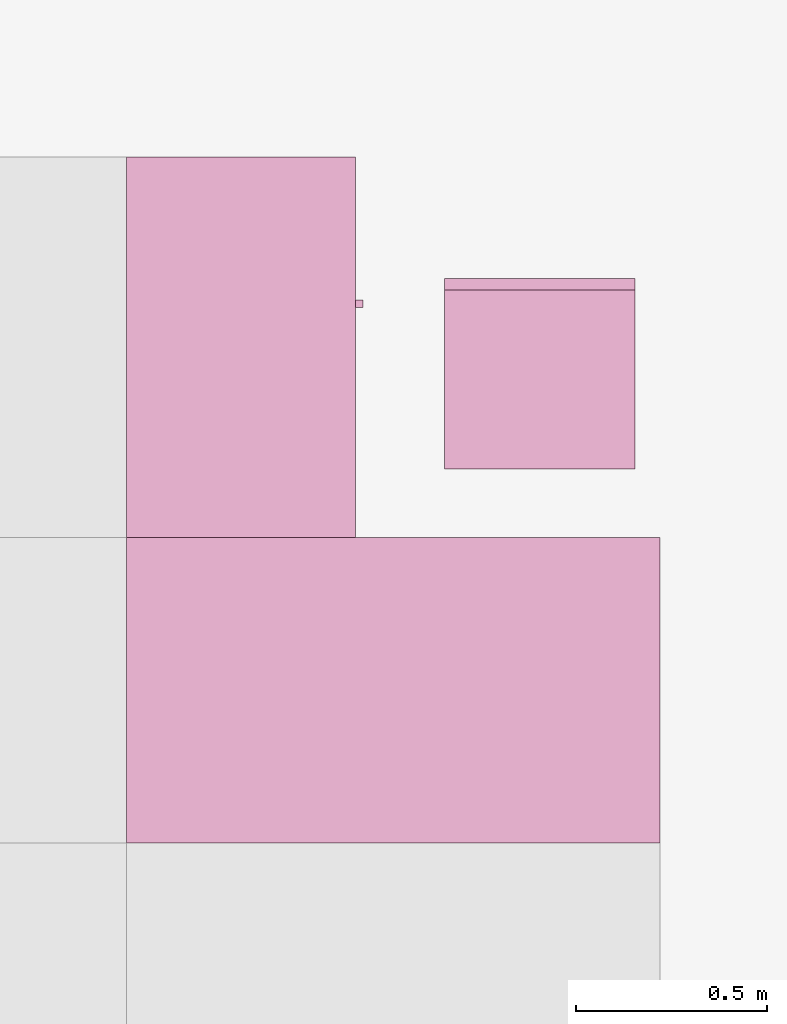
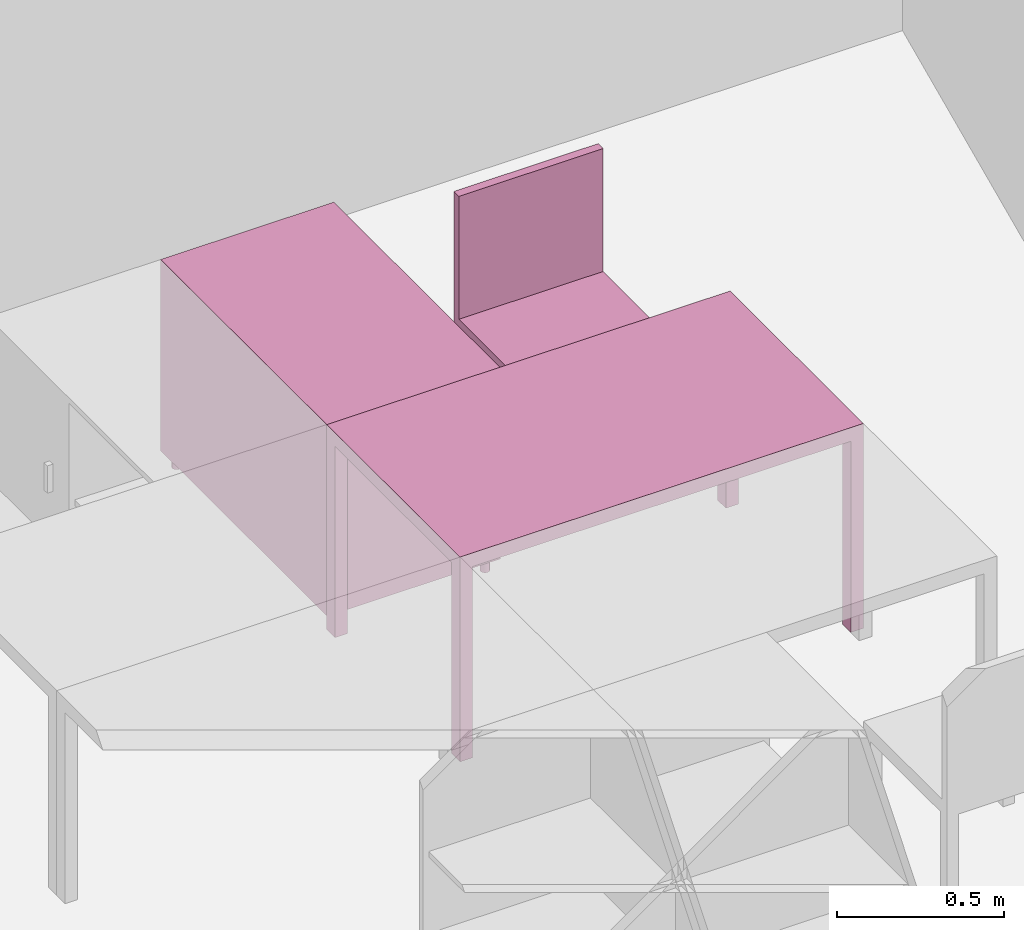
"""IFC4 building model written with IfcOpenShell, lengths in metres."""

from ifc_helpers import new_model, entity, si_unit, converted_unit, derived_unit, frame, origin, place, context, subcontext, project, spatial, faceted_brep, element, save


model = new_model("IFC4")

# Units and contexts
model_context = context("Model", 3, precision=1e-05, world=origin())
body_context = subcontext(model_context, "Body", "Model", "MODEL_VIEW")
ifc_project = project(units=[si_unit("LENGTHUNIT", "METRE"), si_unit("AREAUNIT", "SQUARE_METRE"), si_unit("VOLUMEUNIT", "CUBIC_METRE"), si_unit("MASSUNIT", "GRAM", prefix="KILO"), converted_unit("PLANEANGLEUNIT", "DEGREE", entity("IfcPlaneAngleMeasure", 0.0174532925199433), si_unit("PLANEANGLEUNIT", "RADIAN"), dimensions=[0, 0, 0, 0, 0, 0, 0]), derived_unit("THERMALTRANSMITTANCEUNIT", [(si_unit("POWERUNIT", "WATT"), 1), (si_unit("THERMODYNAMICTEMPERATUREUNIT", "KELVIN"), -1), (si_unit("LENGTHUNIT", "METRE"), -2)]), derived_unit("VOLUMETRICFLOWRATEUNIT", [(si_unit("LENGTHUNIT", "METRE"), 3), (converted_unit("TIMEUNIT", "hour", entity("IfcTimeMeasure", 3600.0), si_unit("TIMEUNIT", "SECOND"), dimensions=[0, 0, 1, 0, 0, 0, 0]), -1), (si_unit("LENGTHUNIT", "METRE"), -1)])], contexts=[model_context])

# Building, storeys
building_placement = place(None, origin())
building = spatial("IfcBuilding", under=ifc_project, at=building_placement, Name="HABITATGE PLURIFAMILIAR", CompositionType="ELEMENT")
storey_1_placement = place(building_placement, frame((0.0, 0.0, 6.25)))
storey_1 = spatial("IfcBuildingStorey", under=building, at=storey_1_placement, Name="PLANTA PRIMERA", CompositionType="ELEMENT", Elevation=6.25)
storey_2_placement = place(storey_1_placement, frame((0.0, 0.0, 3.35)))
storey_2 = spatial("IfcBuildingStorey", under=storey_1, at=storey_2_placement, Name="NOU", CompositionType="PARTIAL")

# Furniture
furniture_1_placement = place(storey_2_placement, frame((423.753213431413, 25.4291508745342, -3.35)))
element("IfcFurniture", 1, at=furniture_1_placement, inside=storey_2, Name="Taula 140X80_P1", context=body_context, shape_type="Brep", body=[
    faceted_brep([(1.35357768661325, 0.05, 0.0), (1.35357768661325, 0.0, 0.0), (1.39732768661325, 0.0, 0.0), (1.39732768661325, 0.05, 0.0), (1.35357768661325, 0.0, 0.7), (1.35357768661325, 0.05, 0.7), (1.39732768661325, 0.05, 0.7), (1.39732768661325, 0.0, 0.7)], [[[0, 1, 2, 3]], [[4, 5, 6, 7]], [[1, 0, 5, 4]], [[2, 1, 4, 7]], [[3, 2, 7, 6]], [[0, 3, 6, 5]]], orient=[[False], [False], [False], [False], [False], [False]]),
    faceted_brep([(1.35357768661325, 0.800069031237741, 0.0), (1.35357768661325, 0.750069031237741, 0.0), (1.39732768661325, 0.750069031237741, 0.0), (1.39732768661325, 0.800069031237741, 0.0), (1.35357768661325, 0.750069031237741, 0.7), (1.35357768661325, 0.800069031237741, 0.7), (1.39732768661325, 0.800069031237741, 0.7), (1.39732768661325, 0.750069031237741, 0.7)], [[[0, 1, 2, 3]], [[4, 5, 6, 7]], [[1, 0, 5, 4]], [[2, 1, 4, 7]], [[3, 2, 7, 6]], [[0, 3, 6, 5]]], orient=[[False], [False], [False], [False], [False], [False]]),
    faceted_brep([(0.0, 0.800069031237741, 0.7), (0.0, 0.0, 0.7), (1.39732768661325, 0.0, 0.7), (1.39732768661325, 0.800069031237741, 0.7), (0.0, 0.0, 0.75), (0.0, 0.800069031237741, 0.75), (1.39732768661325, 0.800069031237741, 0.75), (1.39732768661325, 0.0, 0.75)], [[[0, 1, 2, 3]], [[4, 5, 6, 7]], [[1, 0, 5, 4]], [[2, 1, 4, 7]], [[3, 2, 7, 6]], [[0, 3, 6, 5]]], orient=[[False], [False], [False], [False], [False], [False]]),
    faceted_brep([(0.0, 0.05, 0.0), (0.0, 0.0, 0.0), (0.04375, 0.0, 0.0), (0.04375, 0.05, 0.0), (0.0, 0.0, 0.7), (0.0, 0.05, 0.7), (0.04375, 0.05, 0.7), (0.04375, 0.0, 0.7)], [[[0, 1, 2, 3]], [[4, 5, 6, 7]], [[1, 0, 5, 4]], [[2, 1, 4, 7]], [[3, 2, 7, 6]], [[0, 3, 6, 5]]], orient=[[False], [False], [False], [False], [False], [False]]),
    faceted_brep([(0.0, 0.800069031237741, 0.0), (0.0, 0.750069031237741, 0.0), (0.04375, 0.750069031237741, 0.0), (0.04375, 0.800069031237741, 0.0), (0.0, 0.750069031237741, 0.7), (0.0, 0.800069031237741, 0.7), (0.04375, 0.800069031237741, 0.7), (0.04375, 0.750069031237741, 0.7)], [[[0, 1, 2, 3]], [[4, 5, 6, 7]], [[1, 0, 5, 4]], [[2, 1, 4, 7]], [[3, 2, 7, 6]], [[0, 3, 6, 5]]], orient=[[False], [False], [False], [False], [False], [False]]),
])
furniture_2_placement = place(storey_2_placement, frame((423.753213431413, 26.2261658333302, -3.35)))
element("IfcFurniture", 2, at=furniture_2_placement, inside=storey_2, Name="Taula 100X60_P1", context=body_context, shape_type="Brep", body=[
    faceted_brep([(0.0, 0.0, 0.05), (0.0, 0.0, 0.07), (0.600000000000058, 0.0, 0.07), (0.600000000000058, 0.0, 0.05), (0.600000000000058, 1.00000000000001, 0.07), (0.600000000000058, 1.00000000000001, 0.05), (0.0, 1.00000000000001, 0.07), (0.0, 1.00000000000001, 0.05)], [[[0, 1, 2, 3]], [[3, 2, 4, 5]], [[5, 4, 6, 7]], [[7, 6, 1, 0]], [[0, 3, 5, 7]], [[1, 6, 4, 2]]], orient=[[False], [False], [False], [False], [False], [False]]),
    faceted_brep([(0.580000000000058, 0.0, 0.35), (0.580000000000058, 1.00000000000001, 0.35), (0.0, 1.0, 0.35), (0.0, 0.0, 0.35), (0.0, 0.0, 0.37), (0.0, 1.0, 0.37), (0.580000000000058, 1.00000000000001, 0.37), (0.580000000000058, 0.0, 0.37)], [[[0, 1, 2, 3]], [[4, 5, 6, 7]], [[3, 4, 7, 0]], [[2, 5, 4, 3]], [[1, 6, 5, 2]], [[0, 7, 6, 1]]], orient=[[False], [False], [False], [False], [False], [False]]),
    faceted_brep([(0.580000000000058, 0.510000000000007, 0.75), (0.600000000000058, 0.510000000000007, 0.75), (0.600000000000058, 0.510000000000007, 0.05), (0.580000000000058, 0.510000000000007, 0.05), (0.600000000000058, 1.00000000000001, 0.05), (0.580000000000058, 1.00000000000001, 0.05), (0.600000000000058, 1.00000000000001, 0.75), (0.580000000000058, 1.00000000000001, 0.75)], [[[0, 1, 2, 3]], [[3, 2, 4, 5]], [[5, 4, 6, 7]], [[7, 6, 1, 0]], [[0, 3, 5, 7]], [[1, 6, 4, 2]]], orient=[[False], [False], [False], [False], [False], [False]]),
    faceted_brep([(0.0, 0.0200000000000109, 0.75), (0.0, 0.0, 0.75), (0.0, 0.0, 0.0499999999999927), (0.0, 0.0200000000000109, 0.0499999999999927), (0.600000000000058, 0.0, 0.05), (0.600000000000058, 0.0200000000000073, 0.05), (0.600000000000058, 0.0, 0.75), (0.600000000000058, 0.0200000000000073, 0.75)], [[[0, 1, 2, 3]], [[3, 2, 4, 5]], [[5, 4, 6, 7]], [[7, 6, 1, 0]], [[0, 3, 5, 7]], [[1, 6, 4, 2]]], orient=[[False], [False], [False], [False], [False], [False]]),
    faceted_brep([(0.0, 0.530000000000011, 0.75), (0.0, 0.510000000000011, 0.75), (0.0, 0.510000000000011, 0.0499999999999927), (0.0, 0.530000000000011, 0.0499999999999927), (0.600000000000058, 0.510000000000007, 0.05), (0.600000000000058, 0.530000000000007, 0.05), (0.600000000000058, 0.510000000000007, 0.75), (0.600000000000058, 0.530000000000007, 0.75)], [[[0, 1, 2, 3]], [[3, 2, 4, 5]], [[5, 4, 6, 7]], [[7, 6, 1, 0]], [[0, 3, 5, 7]], [[1, 6, 4, 2]]], orient=[[False], [False], [False], [False], [False], [False]]),
    faceted_brep([(0.0, 0.530000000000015, 0.75000000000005), (0.0, 0.510000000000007, 0.75000000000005), (0.0, 0.510000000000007, 0.0499999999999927), (0.0, 0.530000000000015, 0.0499999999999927), (0.58, 0.510000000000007, 0.0499999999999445), (0.58, 0.530000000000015, 0.0499999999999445), (0.580000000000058, 0.510000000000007, 0.750000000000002), (0.580000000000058, 0.530000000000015, 0.750000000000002)], [[[0, 1, 2, 3]], [[3, 2, 4, 5]], [[5, 4, 6, 7]], [[7, 6, 1, 0]], [[0, 3, 5, 7]], [[1, 6, 4, 2]]], orient=[[False], [False], [False], [False], [False], [False]]),
    faceted_brep([(0.0, 1.00000000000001, 0.75), (0.0, 0.980000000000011, 0.75), (0.0, 0.980000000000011, 0.0499999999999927), (0.0, 1.00000000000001, 0.0499999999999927), (0.600000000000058, 0.980000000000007, 0.05), (0.600000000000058, 1.00000000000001, 0.05), (0.600000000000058, 0.980000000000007, 0.75), (0.600000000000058, 1.00000000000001, 0.75)], [[[0, 1, 2, 3]], [[3, 2, 4, 5]], [[5, 4, 6, 7]], [[7, 6, 1, 0]], [[0, 3, 5, 7]], [[1, 6, 4, 2]]], orient=[[False], [False], [False], [False], [False], [False]]),
    faceted_brep([(0.0, 0.0, 0.73), (0.0, 0.0, 0.75), (0.600000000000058, 0.0, 0.75), (0.600000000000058, 0.0, 0.73), (0.600000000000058, 1.00000000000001, 0.75), (0.600000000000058, 1.00000000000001, 0.73), (0.0, 1.00000000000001, 0.75), (0.0, 1.00000000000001, 0.73)], [[[0, 1, 2, 3]], [[3, 2, 4, 5]], [[5, 4, 6, 7]], [[7, 6, 1, 0]], [[0, 3, 5, 7]], [[1, 6, 4, 2]]], orient=[[False], [False], [False], [False], [False], [False]]),
    faceted_brep([(0.0, 0.0200000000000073, 0.75), (0.0200000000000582, 0.0200000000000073, 0.75), (0.0200000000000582, 0.0200000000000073, 0.05), (0.0, 0.0200000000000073, 0.05), (0.0200000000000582, 1.00000000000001, 0.05), (0.0, 1.00000000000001, 0.05), (0.0200000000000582, 1.00000000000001, 0.75), (0.0, 1.00000000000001, 0.75)], [[[0, 1, 2, 3]], [[3, 2, 4, 5]], [[5, 4, 6, 7]], [[7, 6, 1, 0]], [[0, 3, 5, 7]], [[1, 6, 4, 2]]], orient=[[False], [False], [False], [False], [False], [False]]),
    faceted_brep([(0.600000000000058, 0.625579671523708, 0.35), (0.600000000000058, 0.605579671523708, 0.35), (0.620000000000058, 0.605579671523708, 0.35), (0.620000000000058, 0.625579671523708, 0.35), (0.600000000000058, 0.605579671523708, 0.45), (0.600000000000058, 0.625579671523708, 0.45), (0.620000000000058, 0.625579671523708, 0.45), (0.620000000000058, 0.605579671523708, 0.45)], [[[0, 1, 2, 3]], [[4, 5, 6, 7]], [[1, 0, 5, 4]], [[2, 1, 4, 7]], [[3, 2, 7, 6]], [[0, 3, 6, 5]]], orient=[[False], [False], [False], [False], [False], [False]]),
    faceted_brep([(0.0361788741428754, 0.049936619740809, 0.0), (0.0335849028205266, 0.0497096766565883, 0.0), (0.0310697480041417, 0.0490357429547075, 0.0), (0.0287098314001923, 0.0479352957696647, 0.0), (0.0265768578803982, 0.0464417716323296, 0.0), (0.0247356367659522, 0.0446005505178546, 0.0), (0.0232421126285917, 0.0424675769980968, 0.0), (0.0221416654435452, 0.0401076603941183, 0.0), (0.0214677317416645, 0.0375925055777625, 0.0), (0.021240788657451, 0.0349985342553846, 0.0), (0.0214677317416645, 0.0324045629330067, 0.0), (0.0221416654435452, 0.0298894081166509, 0.0), (0.0232421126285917, 0.0275294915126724, 0.0), (0.0247356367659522, 0.0253965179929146, 0.0), (0.0265768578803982, 0.0235552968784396, 0.0), (0.0287098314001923, 0.0220617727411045, 0.0), (0.0310697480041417, 0.0209613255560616, 0.0), (0.0335849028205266, 0.0202873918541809, 0.0), (0.0361788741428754, 0.0200604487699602, 0.0), (0.0387728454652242, 0.0202873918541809, 0.0), (0.0412880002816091, 0.0209613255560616, 0.0), (0.0436479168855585, 0.0220617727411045, 0.0), (0.0457808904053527, 0.0235552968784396, 0.0), (0.0476221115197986, 0.0253965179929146, 0.0), (0.0491156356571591, 0.0275294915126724, 0.0), (0.0502160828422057, 0.0298894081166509, 0.0), (0.0508900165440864, 0.0324045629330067, 0.0), (0.0511169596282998, 0.0349985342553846, 0.0), (0.0508900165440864, 0.0375925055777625, 0.0), (0.0502160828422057, 0.0401076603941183, 0.0), (0.0491156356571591, 0.0424675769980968, 0.0), (0.0476221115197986, 0.0446005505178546, 0.0), (0.0457808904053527, 0.0464417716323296, 0.0), (0.0436479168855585, 0.0479352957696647, 0.0), (0.0412880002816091, 0.0490357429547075, 0.0), (0.0387728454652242, 0.0497096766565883, 0.0), (0.0361788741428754, 0.049936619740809, 0.05), (0.0387728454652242, 0.0497096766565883, 0.05), (0.0412880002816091, 0.0490357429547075, 0.05), (0.0436479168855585, 0.0479352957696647, 0.05), (0.0457808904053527, 0.0464417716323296, 0.05), (0.0476221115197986, 0.0446005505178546, 0.05), (0.0491156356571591, 0.0424675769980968, 0.05), (0.0502160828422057, 0.0401076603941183, 0.05), (0.0508900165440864, 0.0375925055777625, 0.05), (0.0511169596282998, 0.0349985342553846, 0.05), (0.0508900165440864, 0.0324045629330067, 0.05), (0.0502160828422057, 0.0298894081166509, 0.05), (0.0491156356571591, 0.0275294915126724, 0.05), (0.0476221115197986, 0.0253965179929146, 0.05), (0.0457808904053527, 0.0235552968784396, 0.05), (0.0436479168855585, 0.0220617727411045, 0.05), (0.0412880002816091, 0.0209613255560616, 0.05), (0.0387728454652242, 0.0202873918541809, 0.05), (0.0361788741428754, 0.0200604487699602, 0.05), (0.0335849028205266, 0.0202873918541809, 0.05), (0.0310697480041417, 0.0209613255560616, 0.05), (0.0287098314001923, 0.0220617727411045, 0.05), (0.0265768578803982, 0.0235552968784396, 0.05), (0.0247356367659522, 0.0253965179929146, 0.05), (0.0232421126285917, 0.0275294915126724, 0.05), (0.0221416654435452, 0.0298894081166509, 0.05), (0.0214677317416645, 0.0324045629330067, 0.05), (0.021240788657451, 0.0349985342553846, 0.05), (0.0214677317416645, 0.0375925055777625, 0.05), (0.0221416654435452, 0.0401076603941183, 0.05), (0.0232421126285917, 0.0424675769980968, 0.05), (0.0247356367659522, 0.0446005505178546, 0.05), (0.0265768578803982, 0.0464417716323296, 0.05), (0.0287098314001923, 0.0479352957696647, 0.05), (0.0310697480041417, 0.0490357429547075, 0.05), (0.0335849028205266, 0.0497096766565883, 0.05)], [[[0, 1, 2, 3, 4, 5, 6, 7, 8, 9, 10, 11, 12, 13, 14, 15, 16, 17, 18, 19, 20, 21, 22, 23, 24, 25, 26, 27, 28, 29, 30, 31, 32, 33, 34, 35]], [[36, 37, 38, 39, 40, 41, 42, 43, 44, 45, 46, 47, 48, 49, 50, 51, 52, 53, 54, 55, 56, 57, 58, 59, 60, 61, 62, 63, 64, 65, 66, 67, 68, 69, 70, 71]], [[35, 37, 36, 0]], [[34, 38, 37, 35]], [[33, 39, 38, 34]], [[32, 40, 39, 33]], [[31, 41, 40, 32]], [[30, 42, 41, 31]], [[29, 43, 42, 30]], [[28, 44, 43, 29]], [[27, 45, 44, 28]], [[26, 46, 45, 27]], [[25, 47, 46, 26]], [[24, 48, 47, 25]], [[23, 49, 48, 24]], [[22, 50, 49, 23]], [[21, 51, 50, 22]], [[20, 52, 51, 21]], [[19, 53, 52, 20]], [[18, 54, 53, 19]], [[17, 55, 54, 18]], [[16, 56, 55, 17]], [[15, 57, 56, 16]], [[14, 58, 57, 15]], [[13, 59, 58, 14]], [[12, 60, 59, 13]], [[11, 61, 60, 12]], [[10, 62, 61, 11]], [[9, 63, 62, 10]], [[8, 64, 63, 9]], [[7, 65, 64, 8]], [[6, 66, 65, 7]], [[5, 67, 66, 6]], [[4, 68, 67, 5]], [[3, 69, 68, 4]], [[2, 70, 69, 3]], [[1, 71, 70, 2]], [[0, 36, 71, 1]]], orient=[[False], [False], [False], [False], [False], [False], [False], [False], [False], [False], [False], [False], [False], [False], [False], [False], [False], [False], [False], [False], [False], [False], [False], [False], [False], [False], [False], [False], [False], [False], [False], [False], [False], [False], [False], [False], [False], [False]]),
    faceted_brep([(0.566178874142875, 0.0499366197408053, 0.0), (0.563584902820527, 0.0497096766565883, 0.0), (0.561069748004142, 0.0490357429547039, 0.0), (0.558709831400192, 0.047935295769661, 0.0), (0.556576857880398, 0.0464417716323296, 0.0), (0.554735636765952, 0.0446005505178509, 0.0), (0.553242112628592, 0.0424675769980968, 0.0), (0.552141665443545, 0.0401076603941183, 0.0), (0.551467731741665, 0.0375925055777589, 0.0), (0.551240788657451, 0.0349985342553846, 0.0), (0.551467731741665, 0.0324045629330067, 0.0), (0.552141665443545, 0.0298894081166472, 0.0), (0.553242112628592, 0.0275294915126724, 0.0), (0.554735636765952, 0.0253965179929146, 0.0), (0.556576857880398, 0.0235552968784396, 0.0), (0.558709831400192, 0.0220617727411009, 0.0), (0.561069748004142, 0.0209613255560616, 0.0), (0.563584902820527, 0.0202873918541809, 0.0), (0.566178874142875, 0.0200604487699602, 0.0), (0.568772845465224, 0.0202873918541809, 0.0), (0.571288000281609, 0.0209613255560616, 0.0), (0.573647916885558, 0.0220617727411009, 0.0), (0.575780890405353, 0.0235552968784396, 0.0), (0.577622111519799, 0.0253965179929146, 0.0), (0.579115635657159, 0.0275294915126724, 0.0), (0.580216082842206, 0.0298894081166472, 0.0), (0.580890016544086, 0.0324045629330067, 0.0), (0.5811169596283, 0.0349985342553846, 0.0), (0.580890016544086, 0.0375925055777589, 0.0), (0.580216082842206, 0.0401076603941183, 0.0), (0.579115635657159, 0.0424675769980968, 0.0), (0.577622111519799, 0.0446005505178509, 0.0), (0.575780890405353, 0.0464417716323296, 0.0), (0.573647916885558, 0.047935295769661, 0.0), (0.571288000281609, 0.0490357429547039, 0.0), (0.568772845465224, 0.0497096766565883, 0.0), (0.566178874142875, 0.0499366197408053, 0.05), (0.568772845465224, 0.0497096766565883, 0.05), (0.571288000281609, 0.0490357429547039, 0.05), (0.573647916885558, 0.047935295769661, 0.05), (0.575780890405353, 0.0464417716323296, 0.05), (0.577622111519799, 0.0446005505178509, 0.05), (0.579115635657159, 0.0424675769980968, 0.05), (0.580216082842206, 0.0401076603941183, 0.05), (0.580890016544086, 0.0375925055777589, 0.05), (0.5811169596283, 0.0349985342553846, 0.05), (0.580890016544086, 0.0324045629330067, 0.05), (0.580216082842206, 0.0298894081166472, 0.05), (0.579115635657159, 0.0275294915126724, 0.05), (0.577622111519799, 0.0253965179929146, 0.05), (0.575780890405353, 0.0235552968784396, 0.05), (0.573647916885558, 0.0220617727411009, 0.05), (0.571288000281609, 0.0209613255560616, 0.05), (0.568772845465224, 0.0202873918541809, 0.05), (0.566178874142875, 0.0200604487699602, 0.05), (0.563584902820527, 0.0202873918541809, 0.05), (0.561069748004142, 0.0209613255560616, 0.05), (0.558709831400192, 0.0220617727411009, 0.05), (0.556576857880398, 0.0235552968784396, 0.05), (0.554735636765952, 0.0253965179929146, 0.05), (0.553242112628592, 0.0275294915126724, 0.05), (0.552141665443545, 0.0298894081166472, 0.05), (0.551467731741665, 0.0324045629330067, 0.05), (0.551240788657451, 0.0349985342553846, 0.05), (0.551467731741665, 0.0375925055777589, 0.05), (0.552141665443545, 0.0401076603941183, 0.05), (0.553242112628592, 0.0424675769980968, 0.05), (0.554735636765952, 0.0446005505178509, 0.05), (0.556576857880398, 0.0464417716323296, 0.05), (0.558709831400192, 0.047935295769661, 0.05), (0.561069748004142, 0.0490357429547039, 0.05), (0.563584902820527, 0.0497096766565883, 0.05)], [[[0, 1, 2, 3, 4, 5, 6, 7, 8, 9, 10, 11, 12, 13, 14, 15, 16, 17, 18, 19, 20, 21, 22, 23, 24, 25, 26, 27, 28, 29, 30, 31, 32, 33, 34, 35]], [[36, 37, 38, 39, 40, 41, 42, 43, 44, 45, 46, 47, 48, 49, 50, 51, 52, 53, 54, 55, 56, 57, 58, 59, 60, 61, 62, 63, 64, 65, 66, 67, 68, 69, 70, 71]], [[35, 37, 36, 0]], [[34, 38, 37, 35]], [[33, 39, 38, 34]], [[32, 40, 39, 33]], [[31, 41, 40, 32]], [[30, 42, 41, 31]], [[29, 43, 42, 30]], [[28, 44, 43, 29]], [[27, 45, 44, 28]], [[26, 46, 45, 27]], [[25, 47, 46, 26]], [[24, 48, 47, 25]], [[23, 49, 48, 24]], [[22, 50, 49, 23]], [[21, 51, 50, 22]], [[20, 52, 51, 21]], [[19, 53, 52, 20]], [[18, 54, 53, 19]], [[17, 55, 54, 18]], [[16, 56, 55, 17]], [[15, 57, 56, 16]], [[14, 58, 57, 15]], [[13, 59, 58, 14]], [[12, 60, 59, 13]], [[11, 61, 60, 12]], [[10, 62, 61, 11]], [[9, 63, 62, 10]], [[8, 64, 63, 9]], [[7, 65, 64, 8]], [[6, 66, 65, 7]], [[5, 67, 66, 6]], [[4, 68, 67, 5]], [[3, 69, 68, 4]], [[2, 70, 69, 3]], [[1, 71, 70, 2]], [[0, 36, 71, 1]]], orient=[[False], [False], [False], [False], [False], [False], [False], [False], [False], [False], [False], [False], [False], [False], [False], [False], [False], [False], [False], [False], [False], [False], [False], [False], [False], [False], [False], [False], [False], [False], [False], [False], [False], [False], [False], [False], [False], [False]]),
    faceted_brep([(0.565, 0.979982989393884, 0.0), (0.562406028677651, 0.979756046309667, 0.0), (0.559890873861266, 0.979082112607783, 0.0), (0.557530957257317, 0.97798166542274, 0.0), (0.555397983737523, 0.976488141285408, 0.0), (0.553556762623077, 0.97464692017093, 0.0), (0.552063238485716, 0.972513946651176, 0.0), (0.55096279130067, 0.970154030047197, 0.0), (0.550288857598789, 0.967638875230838, 0.0), (0.550061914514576, 0.965044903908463, 0.0), (0.550288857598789, 0.962450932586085, 0.0), (0.55096279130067, 0.959935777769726, 0.0), (0.552063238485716, 0.957575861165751, 0.0), (0.553556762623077, 0.955442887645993, 0.0), (0.555397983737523, 0.953601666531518, 0.0), (0.557530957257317, 0.95210814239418, 0.0), (0.559890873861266, 0.95100769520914, 0.0), (0.562406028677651, 0.95033376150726, 0.0), (0.565, 0.950106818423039, 0.0), (0.567593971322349, 0.95033376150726, 0.0), (0.570109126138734, 0.95100769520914, 0.0), (0.572469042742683, 0.95210814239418, 0.0), (0.574602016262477, 0.953601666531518, 0.0), (0.576443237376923, 0.955442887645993, 0.0), (0.577936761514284, 0.957575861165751, 0.0), (0.57903720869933, 0.959935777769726, 0.0), (0.579711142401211, 0.962450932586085, 0.0), (0.579938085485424, 0.965044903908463, 0.0), (0.579711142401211, 0.967638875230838, 0.0), (0.57903720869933, 0.970154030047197, 0.0), (0.577936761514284, 0.972513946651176, 0.0), (0.576443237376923, 0.97464692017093, 0.0), (0.574602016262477, 0.976488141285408, 0.0), (0.572469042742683, 0.97798166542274, 0.0), (0.570109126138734, 0.979082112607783, 0.0), (0.567593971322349, 0.979756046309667, 0.0), (0.565, 0.979982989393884, 0.05), (0.567593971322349, 0.979756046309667, 0.05), (0.570109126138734, 0.979082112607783, 0.05), (0.572469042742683, 0.97798166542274, 0.05), (0.574602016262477, 0.976488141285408, 0.05), (0.576443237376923, 0.97464692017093, 0.05), (0.577936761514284, 0.972513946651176, 0.05), (0.57903720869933, 0.970154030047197, 0.05), (0.579711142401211, 0.967638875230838, 0.05), (0.579938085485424, 0.965044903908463, 0.05), (0.579711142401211, 0.962450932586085, 0.05), (0.57903720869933, 0.959935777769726, 0.05), (0.577936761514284, 0.957575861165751, 0.05), (0.576443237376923, 0.955442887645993, 0.05), (0.574602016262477, 0.953601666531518, 0.05), (0.572469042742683, 0.95210814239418, 0.05), (0.570109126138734, 0.95100769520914, 0.05), (0.567593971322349, 0.95033376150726, 0.05), (0.565, 0.950106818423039, 0.05), (0.562406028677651, 0.95033376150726, 0.05), (0.559890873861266, 0.95100769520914, 0.05), (0.557530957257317, 0.95210814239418, 0.05), (0.555397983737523, 0.953601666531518, 0.05), (0.553556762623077, 0.955442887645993, 0.05), (0.552063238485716, 0.957575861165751, 0.05), (0.55096279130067, 0.959935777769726, 0.05), (0.550288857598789, 0.962450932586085, 0.05), (0.550061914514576, 0.965044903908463, 0.05), (0.550288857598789, 0.967638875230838, 0.05), (0.55096279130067, 0.970154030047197, 0.05), (0.552063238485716, 0.972513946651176, 0.05), (0.553556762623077, 0.97464692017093, 0.05), (0.555397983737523, 0.976488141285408, 0.05), (0.557530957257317, 0.97798166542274, 0.05), (0.559890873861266, 0.979082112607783, 0.05), (0.562406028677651, 0.979756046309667, 0.05)], [[[0, 1, 2, 3, 4, 5, 6, 7, 8, 9, 10, 11, 12, 13, 14, 15, 16, 17, 18, 19, 20, 21, 22, 23, 24, 25, 26, 27, 28, 29, 30, 31, 32, 33, 34, 35]], [[36, 37, 38, 39, 40, 41, 42, 43, 44, 45, 46, 47, 48, 49, 50, 51, 52, 53, 54, 55, 56, 57, 58, 59, 60, 61, 62, 63, 64, 65, 66, 67, 68, 69, 70, 71]], [[35, 37, 36, 0]], [[34, 38, 37, 35]], [[33, 39, 38, 34]], [[32, 40, 39, 33]], [[31, 41, 40, 32]], [[30, 42, 41, 31]], [[29, 43, 42, 30]], [[28, 44, 43, 29]], [[27, 45, 44, 28]], [[26, 46, 45, 27]], [[25, 47, 46, 26]], [[24, 48, 47, 25]], [[23, 49, 48, 24]], [[22, 50, 49, 23]], [[21, 51, 50, 22]], [[20, 52, 51, 21]], [[19, 53, 52, 20]], [[18, 54, 53, 19]], [[17, 55, 54, 18]], [[16, 56, 55, 17]], [[15, 57, 56, 16]], [[14, 58, 57, 15]], [[13, 59, 58, 14]], [[12, 60, 59, 13]], [[11, 61, 60, 12]], [[10, 62, 61, 11]], [[9, 63, 62, 10]], [[8, 64, 63, 9]], [[7, 65, 64, 8]], [[6, 66, 65, 7]], [[5, 67, 66, 6]], [[4, 68, 67, 5]], [[3, 69, 68, 4]], [[2, 70, 69, 3]], [[1, 71, 70, 2]], [[0, 36, 71, 1]]], orient=[[False], [False], [False], [False], [False], [False], [False], [False], [False], [False], [False], [False], [False], [False], [False], [False], [False], [False], [False], [False], [False], [False], [False], [False], [False], [False], [False], [False], [False], [False], [False], [False], [False], [False], [False], [False], [False], [False]]),
    faceted_brep([(0.0349662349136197, 0.979647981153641, 0.0), (0.0323722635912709, 0.97942103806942, 0.0), (0.029857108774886, 0.97874710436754, 0.0), (0.0274971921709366, 0.977646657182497, 0.0), (0.0253642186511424, 0.976153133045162, 0.0), (0.0235229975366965, 0.974311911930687, 0.0), (0.022029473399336, 0.972178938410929, 0.0), (0.0209290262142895, 0.96981902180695, 0.0), (0.0202550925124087, 0.967303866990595, 0.0), (0.0200281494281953, 0.964709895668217, 0.0), (0.0202550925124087, 0.962115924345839, 0.0), (0.0209290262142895, 0.959600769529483, 0.0), (0.022029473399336, 0.957240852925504, 0.0), (0.0235229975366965, 0.955107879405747, 0.0), (0.0253642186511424, 0.953266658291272, 0.0), (0.0274971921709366, 0.951773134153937, 0.0), (0.029857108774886, 0.950672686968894, 0.0), (0.0323722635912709, 0.949998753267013, 0.0), (0.0349662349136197, 0.949771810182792, 0.0), (0.0375602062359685, 0.949998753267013, 0.0), (0.0400753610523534, 0.950672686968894, 0.0), (0.0424352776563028, 0.951773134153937, 0.0), (0.044568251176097, 0.953266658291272, 0.0), (0.0464094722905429, 0.955107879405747, 0.0), (0.0479029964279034, 0.957240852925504, 0.0), (0.0490034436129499, 0.959600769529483, 0.0), (0.0496773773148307, 0.962115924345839, 0.0), (0.0499043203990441, 0.964709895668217, 0.0), (0.0496773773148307, 0.967303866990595, 0.0), (0.0490034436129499, 0.96981902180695, 0.0), (0.0479029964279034, 0.972178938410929, 0.0), (0.0464094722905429, 0.974311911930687, 0.0), (0.044568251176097, 0.976153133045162, 0.0), (0.0424352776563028, 0.977646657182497, 0.0), (0.0400753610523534, 0.97874710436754, 0.0), (0.0375602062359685, 0.97942103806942, 0.0), (0.0349662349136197, 0.979647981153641, 0.05), (0.0375602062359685, 0.97942103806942, 0.05), (0.0400753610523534, 0.97874710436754, 0.05), (0.0424352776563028, 0.977646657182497, 0.05), (0.044568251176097, 0.976153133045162, 0.05), (0.0464094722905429, 0.974311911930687, 0.05), (0.0479029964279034, 0.972178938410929, 0.05), (0.0490034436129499, 0.96981902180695, 0.05), (0.0496773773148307, 0.967303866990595, 0.05), (0.0499043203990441, 0.964709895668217, 0.05), (0.0496773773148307, 0.962115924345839, 0.05), (0.0490034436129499, 0.959600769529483, 0.05), (0.0479029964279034, 0.957240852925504, 0.05), (0.0464094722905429, 0.955107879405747, 0.05), (0.044568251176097, 0.953266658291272, 0.05), (0.0424352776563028, 0.951773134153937, 0.05), (0.0400753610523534, 0.950672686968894, 0.05), (0.0375602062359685, 0.949998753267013, 0.05), (0.0349662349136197, 0.949771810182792, 0.05), (0.0323722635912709, 0.949998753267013, 0.05), (0.029857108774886, 0.950672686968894, 0.05), (0.0274971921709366, 0.951773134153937, 0.05), (0.0253642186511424, 0.953266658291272, 0.05), (0.0235229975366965, 0.955107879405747, 0.05), (0.022029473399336, 0.957240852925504, 0.05), (0.0209290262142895, 0.959600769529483, 0.05), (0.0202550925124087, 0.962115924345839, 0.05), (0.0200281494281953, 0.964709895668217, 0.05), (0.0202550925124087, 0.967303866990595, 0.05), (0.0209290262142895, 0.96981902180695, 0.05), (0.022029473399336, 0.972178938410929, 0.05), (0.0235229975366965, 0.974311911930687, 0.05), (0.0253642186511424, 0.976153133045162, 0.05), (0.0274971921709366, 0.977646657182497, 0.05), (0.029857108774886, 0.97874710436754, 0.05), (0.0323722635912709, 0.97942103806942, 0.05)], [[[0, 1, 2, 3, 4, 5, 6, 7, 8, 9, 10, 11, 12, 13, 14, 15, 16, 17, 18, 19, 20, 21, 22, 23, 24, 25, 26, 27, 28, 29, 30, 31, 32, 33, 34, 35]], [[36, 37, 38, 39, 40, 41, 42, 43, 44, 45, 46, 47, 48, 49, 50, 51, 52, 53, 54, 55, 56, 57, 58, 59, 60, 61, 62, 63, 64, 65, 66, 67, 68, 69, 70, 71]], [[35, 37, 36, 0]], [[34, 38, 37, 35]], [[33, 39, 38, 34]], [[32, 40, 39, 33]], [[31, 41, 40, 32]], [[30, 42, 41, 31]], [[29, 43, 42, 30]], [[28, 44, 43, 29]], [[27, 45, 44, 28]], [[26, 46, 45, 27]], [[25, 47, 46, 26]], [[24, 48, 47, 25]], [[23, 49, 48, 24]], [[22, 50, 49, 23]], [[21, 51, 50, 22]], [[20, 52, 51, 21]], [[19, 53, 52, 20]], [[18, 54, 53, 19]], [[17, 55, 54, 18]], [[16, 56, 55, 17]], [[15, 57, 56, 16]], [[14, 58, 57, 15]], [[13, 59, 58, 14]], [[12, 60, 59, 13]], [[11, 61, 60, 12]], [[10, 62, 61, 11]], [[9, 63, 62, 10]], [[8, 64, 63, 9]], [[7, 65, 64, 8]], [[6, 66, 65, 7]], [[5, 67, 66, 6]], [[4, 68, 67, 5]], [[3, 69, 68, 4]], [[2, 70, 69, 3]], [[1, 71, 70, 2]], [[0, 36, 71, 1]]], orient=[[False], [False], [False], [False], [False], [False], [False], [False], [False], [False], [False], [False], [False], [False], [False], [False], [False], [False], [False], [False], [False], [False], [False], [False], [False], [False], [False], [False], [False], [False], [False], [False], [False], [False], [False], [False], [False], [False]]),
])
furniture_3_placement = place(storey_2_placement, frame((424.585691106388, 26.40847499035, -3.34942958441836)))
element("IfcFurniture", 3, at=furniture_3_placement, inside=storey_2, Name="Cadira d'Oficina_P1", context=body_context, shape_type="Brep", body=[
    faceted_brep([(0.5, 0.0, 0.4), (0.5, 0.5, 0.4), (0.0, 0.5, 0.4), (0.0, 0.0, 0.4), (0.5, 0.5, 0.45), (0.5, 0.0, 0.45), (0.0, 0.0, 0.45), (0.0, 0.5, 0.45)], [[[0, 1, 2, 3]], [[4, 5, 6, 7]], [[1, 0, 5, 4]], [[2, 1, 4, 7]], [[3, 2, 7, 6]], [[0, 3, 6, 5]]], orient=[[False], [False], [False], [False], [False], [False]]),
    faceted_brep([(0.0, 0.46, 0.0), (0.04, 0.46, 0.0), (0.04, 0.5, 0.0), (0.0, 0.5, 0.0), (0.04, 0.46, 0.4), (0.0, 0.46, 0.4), (0.0, 0.5, 0.4), (0.04, 0.5, 0.4)], [[[0, 1, 2, 3]], [[4, 5, 6, 7]], [[1, 0, 5, 4]], [[2, 1, 4, 7]], [[3, 2, 7, 6]], [[0, 3, 6, 5]]], orient=[[False], [False], [False], [False], [False], [False]]),
    faceted_brep([(0.0, 0.0, 0.0), (0.04, 0.0, 0.0), (0.04, 0.04, 0.0), (0.0, 0.04, 0.0), (0.04, 0.0, 0.4), (0.0, 0.0, 0.4), (0.0, 0.04, 0.4), (0.04, 0.04, 0.4)], [[[0, 1, 2, 3]], [[4, 5, 6, 7]], [[1, 0, 5, 4]], [[2, 1, 4, 7]], [[3, 2, 7, 6]], [[0, 3, 6, 5]]], orient=[[False], [False], [False], [False], [False], [False]]),
    faceted_brep([(0.46, 0.46, 0.0), (0.5, 0.46, 0.0), (0.5, 0.5, 0.0), (0.46, 0.5, 0.0), (0.5, 0.46, 0.4), (0.46, 0.46, 0.4), (0.46, 0.5, 0.4), (0.5, 0.5, 0.4)], [[[0, 1, 2, 3]], [[4, 5, 6, 7]], [[1, 0, 5, 4]], [[2, 1, 4, 7]], [[3, 2, 7, 6]], [[0, 3, 6, 5]]], orient=[[False], [False], [False], [False], [False], [False]]),
    faceted_brep([(0.46, 0.0, 0.0), (0.5, 0.0, 0.0), (0.5, 0.04, 0.0), (0.46, 0.04, 0.0), (0.5, 0.0, 0.4), (0.46, 0.0, 0.4), (0.46, 0.04, 0.4), (0.5, 0.04, 0.4)], [[[0, 1, 2, 3]], [[4, 5, 6, 7]], [[1, 0, 5, 4]], [[2, 1, 4, 7]], [[3, 2, 7, 6]], [[0, 3, 6, 5]]], orient=[[False], [False], [False], [False], [False], [False]]),
    faceted_brep([(0.0, 0.47, 0.45), (0.5, 0.47, 0.45), (0.5, 0.5, 0.45), (0.0, 0.5, 0.45), (0.5, 0.47, 0.9), (0.0, 0.47, 0.9), (0.0, 0.5, 0.9), (0.5, 0.5, 0.9)], [[[0, 1, 2, 3]], [[4, 5, 6, 7]], [[1, 0, 5, 4]], [[2, 1, 4, 7]], [[3, 2, 7, 6]], [[0, 3, 6, 5]]], orient=[[False], [False], [False], [False], [False], [False]]),
])

save(model, "model.ifc")
